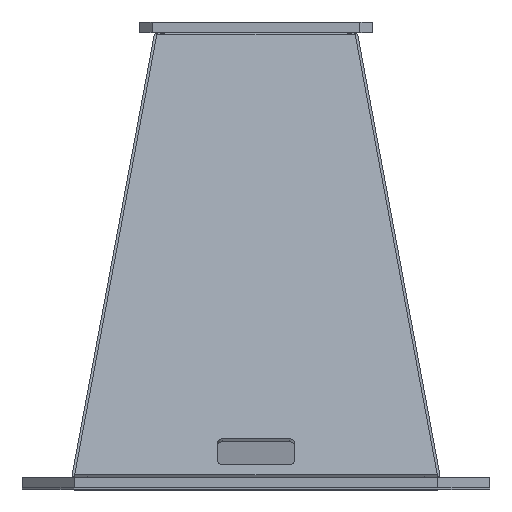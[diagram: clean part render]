
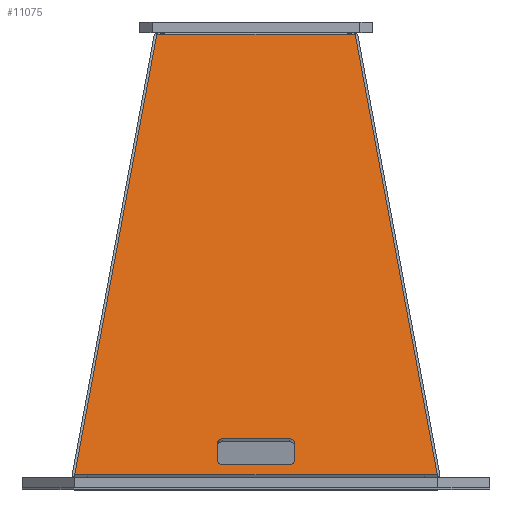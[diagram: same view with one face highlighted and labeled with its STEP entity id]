
A CAD part, top view. The second image highlights one B-rep face of the part: STEP entity #11075.
In plain terms, the highlighted planar face has unit normal (0, 0.183, 0.983).
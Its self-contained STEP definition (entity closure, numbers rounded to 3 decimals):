
#187 = EDGE_CURVE ( 'NONE', #3113, #2627, #5881, .T. ) ;
#279 = DIRECTION ( 'NONE',  ( 0., 0.183, 0.983 ) ) ;
#340 = VERTEX_POINT ( 'NONE', #3358 ) ;
#350 = CARTESIAN_POINT ( 'NONE',  ( -150., 129.629, 685.985 ) ) ;
#592 = ORIENTED_EDGE ( 'NONE', *, *, #1556, .F. ) ;
#626 = VERTEX_POINT ( 'NONE', #3742 ) ;
#649 = CARTESIAN_POINT ( 'NONE',  ( 130., 149.289, 682.317 ) ) ;
#801 = DIRECTION ( 'NONE',  ( 0., -0.983, 0.183 ) ) ;
#888 = CIRCLE ( 'NONE', #3842, 20. ) ;
#917 = CARTESIAN_POINT ( 'NONE',  ( 130., 129.629, 685.985 ) ) ;
#1206 = VECTOR ( 'NONE', #3757, 1000. ) ;
#1208 = ORIENTED_EDGE ( 'NONE', *, *, #5489, .T. ) ;
#1285 = EDGE_CURVE ( 'NONE', #7299, #5068, #5397, .T. ) ;
#1297 = CARTESIAN_POINT ( 'NONE',  ( -654.431, 246.054, 664.262 ) ) ;
#1352 = VERTEX_POINT ( 'NONE', #4921 ) ;
#1372 = ORIENTED_EDGE ( 'NONE', *, *, #10292, .F. ) ;
#1556 = EDGE_CURVE ( 'NONE', #1352, #8639, #6669, .T. ) ;
#1570 = DIRECTION ( 'NONE',  ( 0., 0.983, -0.183 ) ) ;
#1620 = DIRECTION ( 'NONE',  ( 0., 0.983, -0.183 ) ) ;
#1814 = VECTOR ( 'NONE', #10306, 1000. ) ;
#1817 = EDGE_LOOP ( 'NONE', ( #3046, #10183, #5399, #592, #1372, #5438, #10962, #10791 ) ) ;
#1850 = CARTESIAN_POINT ( 'NONE',  ( -150., 70.647, 696.991 ) ) ;
#1993 = AXIS2_PLACEMENT_3D ( 'NONE', #7563, #10069, #1570 ) ;
#2065 = CARTESIAN_POINT ( 'NONE',  ( -698.166, 11.665, 707.996 ) ) ;
#2248 = ORIENTED_EDGE ( 'NONE', *, *, #5316, .F. ) ;
#2396 = FACE_BOUND ( 'NONE', #1817, .T. ) ;
#2506 = CARTESIAN_POINT ( 'NONE',  ( 150., 129.629, 685.985 ) ) ;
#2627 = VERTEX_POINT ( 'NONE', #2065 ) ;
#3046 = ORIENTED_EDGE ( 'NONE', *, *, #7175, .F. ) ;
#3113 = VERTEX_POINT ( 'NONE', #11051 ) ;
#3358 = CARTESIAN_POINT ( 'NONE',  ( -130., 50.986, 700.659 ) ) ;
#3477 = LINE ( 'NONE', #9542, #8857 ) ;
#3622 = LINE ( 'NONE', #7396, #1206 ) ;
#3678 = VERTEX_POINT ( 'NONE', #649 ) ;
#3742 = CARTESIAN_POINT ( 'NONE',  ( -130., 149.289, 682.317 ) ) ;
#3757 = DIRECTION ( 'NONE',  ( 1., 0., 0. ) ) ;
#3842 = AXIS2_PLACEMENT_3D ( 'NONE', #917, #6037, #8371 ) ;
#3974 = CARTESIAN_POINT ( 'NONE',  ( -150., 129.629, 685.985 ) ) ;
#4555 = VECTOR ( 'NONE', #1620, 1000. ) ;
#4811 = LINE ( 'NONE', #11452, #6940 ) ;
#4921 = CARTESIAN_POINT ( 'NONE',  ( 150., 70.647, 696.991 ) ) ;
#5007 = VERTEX_POINT ( 'NONE', #5600 ) ;
#5013 = EDGE_CURVE ( 'NONE', #2627, #8655, #3622, .T. ) ;
#5050 = DIRECTION ( 'NONE',  ( 0., 0.183, 0.983 ) ) ;
#5051 = EDGE_LOOP ( 'NONE', ( #5648, #11676, #2248, #1208 ) ) ;
#5068 = VERTEX_POINT ( 'NONE', #1850 ) ;
#5286 = CARTESIAN_POINT ( 'NONE',  ( 654.431, 246.054, 664.262 ) ) ;
#5316 = EDGE_CURVE ( 'NONE', #8334, #8655, #9687, .T. ) ;
#5327 = EDGE_CURVE ( 'NONE', #3678, #626, #9419, .T. ) ;
#5397 = LINE ( 'NONE', #3974, #5953 ) ;
#5399 = ORIENTED_EDGE ( 'NONE', *, *, #9475, .F. ) ;
#5438 = ORIENTED_EDGE ( 'NONE', *, *, #7962, .F. ) ;
#5489 = EDGE_CURVE ( 'NONE', #8334, #3113, #3477, .T. ) ;
#5600 = CARTESIAN_POINT ( 'NONE',  ( 130., 50.986, 700.659 ) ) ;
#5648 = ORIENTED_EDGE ( 'NONE', *, *, #187, .T. ) ;
#5733 = DIRECTION ( 'NONE',  ( 0., 0.983, -0.183 ) ) ;
#5881 = LINE ( 'NONE', #1297, #1814 ) ;
#5951 = CARTESIAN_POINT ( 'NONE',  ( 381.834, 1707.004, 391.665 ) ) ;
#5953 = VECTOR ( 'NONE', #7607, 1000. ) ;
#5979 = CARTESIAN_POINT ( 'NONE',  ( -130., 129.629, 685.985 ) ) ;
#6037 = DIRECTION ( 'NONE',  ( 0., 0.183, 0.983 ) ) ;
#6041 = VECTOR ( 'NONE', #11530, 1000. ) ;
#6623 = CARTESIAN_POINT ( 'NONE',  ( 130., 70.647, 696.991 ) ) ;
#6669 = LINE ( 'NONE', #2506, #4555 ) ;
#6935 = FACE_OUTER_BOUND ( 'NONE', #5051, .T. ) ;
#6940 = VECTOR ( 'NONE', #8499, 1000. ) ;
#7005 = VECTOR ( 'NONE', #11495, 1000. ) ;
#7106 = PLANE ( 'NONE',  #7350 ) ;
#7175 = EDGE_CURVE ( 'NONE', #626, #7299, #10758, .T. ) ;
#7299 = VERTEX_POINT ( 'NONE', #350 ) ;
#7350 = AXIS2_PLACEMENT_3D ( 'NONE', #9828, #11615, #801 ) ;
#7396 = CARTESIAN_POINT ( 'NONE',  ( 700., 11.665, 707.996 ) ) ;
#7563 = CARTESIAN_POINT ( 'NONE',  ( -130., 70.647, 696.991 ) ) ;
#7607 = DIRECTION ( 'NONE',  ( 0., -0.983, 0.183 ) ) ;
#7962 = EDGE_CURVE ( 'NONE', #340, #5007, #4811, .T. ) ;
#7967 = CARTESIAN_POINT ( 'NONE',  ( -130., 149.289, 682.317 ) ) ;
#8334 = VERTEX_POINT ( 'NONE', #5951 ) ;
#8371 = DIRECTION ( 'NONE',  ( 0., 0.983, -0.183 ) ) ;
#8499 = DIRECTION ( 'NONE',  ( 1., 0., 0. ) ) ;
#8639 = VERTEX_POINT ( 'NONE', #11557 ) ;
#8648 = DIRECTION ( 'NONE',  ( -1., 0., 0. ) ) ;
#8655 = VERTEX_POINT ( 'NONE', #9110 ) ;
#8857 = VECTOR ( 'NONE', #8648, 1000. ) ;
#9110 = CARTESIAN_POINT ( 'NONE',  ( 698.166, 11.665, 707.996 ) ) ;
#9419 = LINE ( 'NONE', #7967, #7005 ) ;
#9423 = EDGE_CURVE ( 'NONE', #5068, #340, #10512, .T. ) ;
#9475 = EDGE_CURVE ( 'NONE', #8639, #3678, #888, .T. ) ;
#9542 = CARTESIAN_POINT ( 'NONE',  ( -380., 1707.004, 391.665 ) ) ;
#9687 = LINE ( 'NONE', #5286, #6041 ) ;
#9828 = CARTESIAN_POINT ( 'NONE',  ( 0., 128.052, 686.279 ) ) ;
#10069 = DIRECTION ( 'NONE',  ( 0., 0.183, 0.983 ) ) ;
#10183 = ORIENTED_EDGE ( 'NONE', *, *, #5327, .F. ) ;
#10292 = EDGE_CURVE ( 'NONE', #5007, #1352, #10621, .T. ) ;
#10306 = DIRECTION ( 'NONE',  ( -0.18, -0.967, 0.18 ) ) ;
#10512 = CIRCLE ( 'NONE', #1993, 20. ) ;
#10621 = CIRCLE ( 'NONE', #10940, 20. ) ;
#10758 = CIRCLE ( 'NONE', #10973, 20. ) ;
#10791 = ORIENTED_EDGE ( 'NONE', *, *, #1285, .F. ) ;
#10940 = AXIS2_PLACEMENT_3D ( 'NONE', #6623, #279, #5733 ) ;
#10962 = ORIENTED_EDGE ( 'NONE', *, *, #9423, .F. ) ;
#10973 = AXIS2_PLACEMENT_3D ( 'NONE', #5979, #5050, #11317 ) ;
#11051 = CARTESIAN_POINT ( 'NONE',  ( -381.834, 1707.004, 391.665 ) ) ;
#11075 = ADVANCED_FACE ( 'NONE', ( #2396, #6935 ), #7106, .T. ) ;
#11317 = DIRECTION ( 'NONE',  ( 0., 0.983, -0.183 ) ) ;
#11452 = CARTESIAN_POINT ( 'NONE',  ( -130., 50.986, 700.659 ) ) ;
#11495 = DIRECTION ( 'NONE',  ( -1., 0., 0. ) ) ;
#11530 = DIRECTION ( 'NONE',  ( 0.18, -0.967, 0.18 ) ) ;
#11557 = CARTESIAN_POINT ( 'NONE',  ( 150., 129.629, 685.985 ) ) ;
#11615 = DIRECTION ( 'NONE',  ( 0., 0.183, 0.983 ) ) ;
#11676 = ORIENTED_EDGE ( 'NONE', *, *, #5013, .T. ) ;
